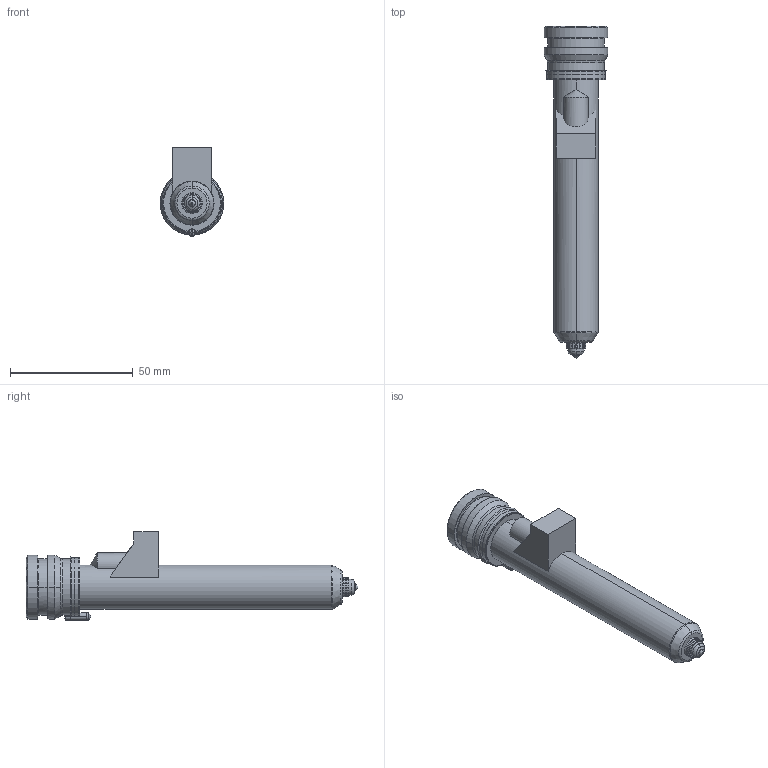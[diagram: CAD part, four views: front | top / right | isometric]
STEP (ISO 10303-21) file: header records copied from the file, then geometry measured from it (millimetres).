
FILE_DESCRIPTION((''),'2;1');
FILE_NAME('TH18117_5-M-1B15-PK-JG','2023-12-14T',('umhib'),('Thermoplay S.p.A.'),'PRO/ENGINEER BY PARAMETRIC TECHNOLOGY CORPORATION, 2017170','PRO/ENGINEER BY PARAMETRIC TECHNOLOGY CORPORATION, 2017170','');
FILE_SCHEMA(('CONFIG_CONTROL_DESIGN'));
Length unit declared in the file: millimetre
Products named in the file (1): TH18117_5-M-1B15-PK-JG
Bounding box: 26 x 135.5 x 36.1 mm (x, y, z)
Volume: 27891.9 mm3; surface area: 21290.1 mm2
Topology: 1 solids, 2 shells, 393 faces, 1003 edges, 615 vertices
Faces by surface type: cylinder 149, plane 87, cone 64, torus 58, bspline 22, sphere 11, extrusion 2
Entity records: 16875 total; most frequent: CARTESIAN_POINT 5192, DIRECTION 2010, ORIENTED_EDGE 1980, EDGE_CURVE 992, AXIS2_PLACEMENT_3D 810, VERTEX_POINT 615, CIRCLE 440, EDGE_LOOP 416
